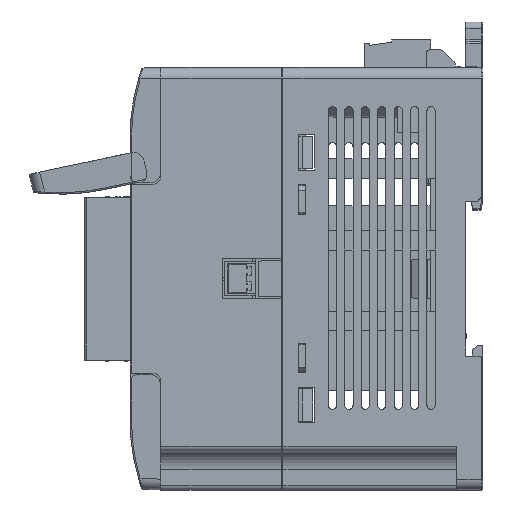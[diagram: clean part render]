
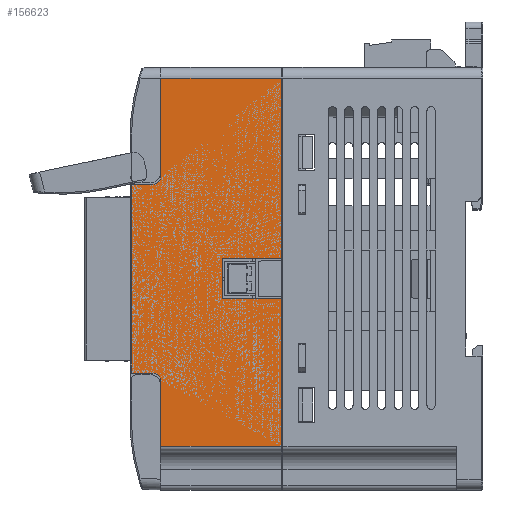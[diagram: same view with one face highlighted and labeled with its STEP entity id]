
A CAD part, left-side view. The second image highlights one B-rep face of the part: STEP entity #156623.
In plain terms, the highlighted planar face has unit normal (-1, 0, 0).
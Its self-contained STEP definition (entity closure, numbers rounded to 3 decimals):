
#142451=DIRECTION('',(0.,0.,1.));
#142452=VECTOR('',#142451,33.9);
#142453=CARTESIAN_POINT('',(-43.,0.,-38.5));
#142454=LINE('',#142453,#142452);
#142463=DIRECTION('',(0.,1.,0.));
#142464=VECTOR('',#142463,13.65);
#142465=CARTESIAN_POINT('',(-43.,0.,-4.6));
#142466=LINE('',#142465,#142464);
#142543=DIRECTION('',(0.,0.,1.));
#142544=VECTOR('',#142543,15.05);
#142545=CARTESIAN_POINT('',(-43.,27.75,-38.5));
#142546=LINE('',#142545,#142544);
#142547=CARTESIAN_POINT('',(-43.,29.55,-23.45));
#142548=DIRECTION('',(-1.,0.,0.));
#142549=DIRECTION('',(0.,-1.,0.));
#142550=AXIS2_PLACEMENT_3D('',#142547,#142548,#142549);
#142552=DIRECTION('',(0.,-1.,0.));
#142553=VECTOR('',#142552,4.9);
#142554=CARTESIAN_POINT('',(-43.,34.45,21.65));
#142555=LINE('',#142554,#142553);
#142556=CARTESIAN_POINT('',(-43.,29.55,23.45));
#142557=DIRECTION('',(-1.,0.,0.));
#142558=DIRECTION('',(0.,0.,-1.));
#142559=AXIS2_PLACEMENT_3D('',#142556,#142557,#142558);
#142561=DIRECTION('',(0.,0.,-1.));
#142562=VECTOR('',#142561,9.2);
#142563=CARTESIAN_POINT('',(-43.,13.65,4.6));
#142564=LINE('',#142563,#142562);
#142565=DIRECTION('',(0.,-1.,0.));
#142566=VECTOR('',#142565,27.75);
#142567=CARTESIAN_POINT('',(-43.,27.75,-38.5));
#142568=LINE('',#142567,#142566);
#143705=DIRECTION('',(0.,0.,1.));
#143706=VECTOR('',#143705,41.4);
#143707=CARTESIAN_POINT('',(-43.,0.,4.6));
#143708=LINE('',#143707,#143706);
#143754=DIRECTION('',(0.,-1.,0.));
#143755=VECTOR('',#143754,13.65);
#143756=CARTESIAN_POINT('',(-43.,13.65,4.6));
#143757=LINE('',#143756,#143755);
#143912=DIRECTION('',(0.,1.,0.));
#143913=VECTOR('',#143912,27.75);
#143914=CARTESIAN_POINT('',(-43.,0.,46.));
#143915=LINE('',#143914,#143913);
#143929=DIRECTION('',(0.,0.,-1.));
#143930=VECTOR('',#143929,22.55);
#143931=CARTESIAN_POINT('',(-43.,27.75,46.));
#143932=LINE('',#143931,#143930);
#144092=DIRECTION('',(0.,0.,-1.));
#144093=VECTOR('',#144092,43.3);
#144094=CARTESIAN_POINT('',(-43.,34.45,21.65));
#144095=LINE('',#144094,#144093);
#144105=DIRECTION('',(0.,-1.,0.));
#144106=VECTOR('',#144105,4.9);
#144107=CARTESIAN_POINT('',(-43.,34.45,-21.65));
#144108=LINE('',#144107,#144106);
#151807=CARTESIAN_POINT('',(-43.,0.,-4.6));
#151809=VERTEX_POINT('',#151807);
#151840=CARTESIAN_POINT('',(-43.,0.,-38.5));
#151841=VERTEX_POINT('',#151840);
#151846=CARTESIAN_POINT('',(-43.,13.65,-4.6));
#151847=VERTEX_POINT('',#151846);
#151866=CARTESIAN_POINT('',(-43.,13.65,4.6));
#151867=VERTEX_POINT('',#151866);
#151868=CARTESIAN_POINT('',(-43.,27.75,-38.5));
#151869=VERTEX_POINT('',#151868);
#151870=CARTESIAN_POINT('',(-43.,27.75,-23.45));
#151871=VERTEX_POINT('',#151870);
#151872=CARTESIAN_POINT('',(-43.,29.55,-21.65));
#151873=VERTEX_POINT('',#151872);
#151874=CARTESIAN_POINT('',(-43.,34.45,-21.65));
#151875=VERTEX_POINT('',#151874);
#151876=CARTESIAN_POINT('',(-43.,34.45,21.65));
#151877=VERTEX_POINT('',#151876);
#151878=CARTESIAN_POINT('',(-43.,29.55,21.65));
#151879=VERTEX_POINT('',#151878);
#151880=CARTESIAN_POINT('',(-43.,27.75,23.45));
#151881=VERTEX_POINT('',#151880);
#151882=CARTESIAN_POINT('',(-43.,27.75,46.));
#151883=VERTEX_POINT('',#151882);
#151884=CARTESIAN_POINT('',(-43.,0.,46.));
#151885=VERTEX_POINT('',#151884);
#151886=CARTESIAN_POINT('',(-43.,0.,4.6));
#151887=VERTEX_POINT('',#151886);
#156591=CARTESIAN_POINT('',(-43.,-46.2,-48.5));
#156592=DIRECTION('',(-1.,0.,0.));
#156593=DIRECTION('',(0.,0.,1.));
#156594=AXIS2_PLACEMENT_3D('',#156591,#156592,#156593);
#156595=PLANE('',#156594);
#156596=ORIENTED_EDGE('',*,*,#156412,.F.);
#156597=ORIENTED_EDGE('',*,*,#156387,.F.);
#156599=ORIENTED_EDGE('',*,*,#156598,.F.);
#156601=ORIENTED_EDGE('',*,*,#156600,.T.);
#156603=ORIENTED_EDGE('',*,*,#156602,.T.);
#156605=ORIENTED_EDGE('',*,*,#156604,.F.);
#156607=ORIENTED_EDGE('',*,*,#156606,.F.);
#156609=ORIENTED_EDGE('',*,*,#156608,.T.);
#156611=ORIENTED_EDGE('',*,*,#156610,.T.);
#156613=ORIENTED_EDGE('',*,*,#156612,.F.);
#156615=ORIENTED_EDGE('',*,*,#156614,.F.);
#156617=ORIENTED_EDGE('',*,*,#156616,.F.);
#156619=ORIENTED_EDGE('',*,*,#156618,.F.);
#156620=ORIENTED_EDGE('',*,*,#156555,.T.);
#156621=EDGE_LOOP('',(#156596,#156597,#156599,#156601,#156603,#156605,#156607,
#156609,#156611,#156613,#156615,#156617,#156619,#156620));
#156622=FACE_OUTER_BOUND('',#156621,.F.);
#142551=CIRCLE('',#142550,1.8);
#142560=CIRCLE('',#142559,1.8);
#156387=EDGE_CURVE('',#151841,#151809,#142454,.T.);
#156412=EDGE_CURVE('',#151809,#151847,#142466,.T.);
#156555=EDGE_CURVE('',#151867,#151847,#142564,.T.);
#156598=EDGE_CURVE('',#151869,#151841,#142568,.T.);
#156600=EDGE_CURVE('',#151869,#151871,#142546,.T.);
#156602=EDGE_CURVE('',#151871,#151873,#142551,.T.);
#156604=EDGE_CURVE('',#151875,#151873,#144108,.T.);
#156606=EDGE_CURVE('',#151877,#151875,#144095,.T.);
#156608=EDGE_CURVE('',#151877,#151879,#142555,.T.);
#156610=EDGE_CURVE('',#151879,#151881,#142560,.T.);
#156612=EDGE_CURVE('',#151883,#151881,#143932,.T.);
#156614=EDGE_CURVE('',#151885,#151883,#143915,.T.);
#156616=EDGE_CURVE('',#151887,#151885,#143708,.T.);
#156618=EDGE_CURVE('',#151867,#151887,#143757,.T.);
#156623=ADVANCED_FACE('',(#156622),#156595,.T.);
